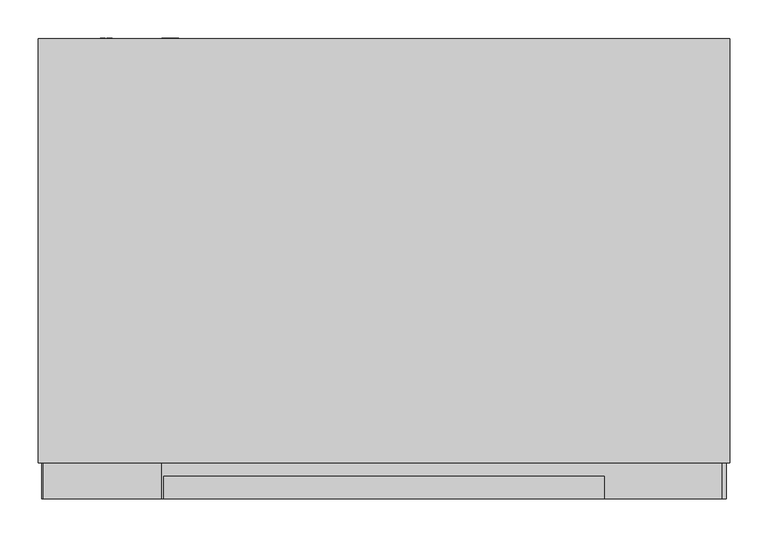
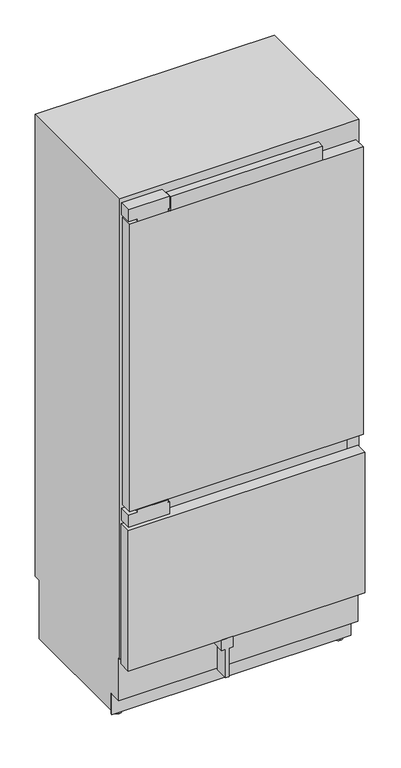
"""IFC4 building model written with IfcOpenShell, lengths in millimetres: proxy geometry, 11502940_USA_KF2912Vi : 38291201_USA_11502940_KF2912Vi."""

from ifc_helpers import new_model, si_unit, point, frame, frame_2d, origin, place, context, project, spatial, polyline, circle_curve, trimmed, segment, composite_curve, outline, extrude, source, transform, mapped, element, save
from ifc_brep_helpers import plane_surface, cylinder_surface, advanced_brep


def specialty_equipment_4c646a47(model_context):
    return source(origin(), model_context, "Body", "SolidModel", [
        extrude(outline(polyline([(247.0, -94.0), (205.0, -94.0), (205.0, -79.5), (90.0, -79.5), (90.0, -66.5), (205.0, -66.5), (205.0, -52.0), (247.0, -52.0), (247.0, -94.0)])), frame((0.0, 0.0, 0.0), z_axis=(0.0, 1.0, 0.0), x_axis=(0.0, 0.0, 1.0)), (0.0, 0.0, 1.0), 54.0),
        extrude(outline(polyline([(-443.0, 47.0), (443.0, 47.0), (443.0, 0.0), (-443.0, 0.0), (-443.0, 47.0)])), frame((0.0, 0.0, 883.0), z_axis=(0.0, 0.0, 1.0), x_axis=(1.0, 0.0, 0.0)), (0.0, 0.0, 1.0), 1153.0),
        extrude(outline(polyline([(-449.5, 47.0), (449.5, 47.0), (449.5, 0.0), (-449.5, 0.0), (-449.5, 47.0)])), frame((0.0, 0.0, 247.0), z_axis=(0.0, 0.0, 1.0), x_axis=(1.0, 0.0, 0.0)), (0.0, 0.0, 1.0), 562.0),
        extrude(outline(polyline([(-289.0, 29.0), (289.0, 29.0), (289.0, 0.0), (-289.0, 0.0), (-289.0, 29.0)])), frame((0.0, 0.0, 2036.0), z_axis=(0.0, 0.0, 1.0), x_axis=(1.0, 0.0, 0.0)), (0.0, 0.0, 1.0), 56.0),
        extrude(outline(polyline([(180.5, 1973.4), (217.625, 1914.0), (216.4457524, 1914.0), (179.3207524, 1973.4), (180.5, 1973.4)])), frame((-69.0, 0.0, 0.0), z_axis=(1.0, 0.0, 0.0), x_axis=(0.0, 1.0, 0.0)), (0.0, 0.0, 1.0), 138.0),
        extrude(outline(polyline([(544.0, 1998.0), (544.0, 1796.0), (474.0, 1796.0), (433.0, 1907.0), (222.0, 1907.0), (177.0, 1979.0), (129.0, 1998.0), (544.0, 1998.0)])), frame((-408.0, 0.0, 0.0), z_axis=(1.0, 0.0, 0.0), x_axis=(0.0, 1.0, 0.0)), (0.0, 0.0, 1.0), 816.0),
        extrude(outline(polyline([(-408.0, 544.0), (408.0, 544.0), (408.0, 519.0), (-408.0, 519.0), (-408.0, 544.0)])), frame((0.0, 0.0, 303.0), z_axis=(0.0, 0.0, 1.0), x_axis=(1.0, 0.0, 0.0)), (0.0, 0.0, 1.0), 467.0),
        extrude(outline(polyline([(-408.0, 544.0), (408.0, 544.0), (408.0, 47.0), (-408.0, 47.0), (-408.0, 544.0)])), frame((0.0, 0.0, 770.0), z_axis=(0.0, 0.0, 1.0), x_axis=(1.0, 0.0, 0.0)), (0.0, 0.0, 1.0), 144.0),
        extrude(outline(polyline([(46.0510837, -279.101717), (37.4134902, -281.1745179), (46.0453554, -283.6868463), (46.0453554, -285.5601414), (37.4089549, -288.0799633), (46.0493903, -290.1581876), (46.0493903, -291.4649805), (36.0005458, -288.7156324), (36.0005458, -287.372208), (44.8261022, -284.6342221), (35.9987467, -282.0620509), (35.9987287, -280.5451466), (46.0510837, -277.800191), (46.0510837, -279.101717)])), frame((0.0, 604.0, 0.0), z_axis=(0.0, 1.0, 0.0), x_axis=(0.0, 0.0, 1.0)), (0.0, 0.0, 1.0), 1.0),
        extrude(outline(polyline([(46.0485238, -270.7401503), (41.1363122, -270.7401503), (46.0468162, -275.884602), (46.0468162, -277.6328316), (41.9156889, -273.3260313), (36.000035, -277.8032231), (36.000035, -276.2795519), (41.0742849, -272.4391666), (39.4525334, -270.7395503), (35.9999292, -270.7395503), (35.9999292, -269.4795491), (46.0485238, -269.4795491), (46.0485238, -270.7401503)])), frame((0.0, 604.0, 0.0), z_axis=(0.0, 1.0, 0.0), x_axis=(0.0, 0.0, 1.0)), (0.0, 0.0, 1.0), 1.0),
        extrude(outline(composite_curve([segment(trimmed(circle_curve(frame_2d((41.0, -280.0)), 7.5), [point((33.5, -280.0))], [point((48.5, -280.0))], False, "CARTESIAN"), True, "CONTINUOUS"), segment(trimmed(circle_curve(frame_2d((41.0, -280.0)), 7.5), [point((48.5, -280.0))], [point((33.5, -280.0))], False, "CARTESIAN"), True, "CONTINUOUS")], self_intersect=False)), frame((0.0, 577.0, 0.0), z_axis=(0.0, 1.0, 0.0), x_axis=(0.0, 0.0, 1.0)), (0.0, 0.0, 1.0), 27.0),
        extrude(outline(polyline([(2095.0, -447.5), (2047.0, -447.5), (2047.0, -413.5), (2036.5, -413.5), (2036.5, -298.5), (2047.0, -298.5), (2047.0, -292.5), (2095.0, -292.5), (2095.0, -447.5)])), frame((0.0, 0.0, 0.0), z_axis=(0.0, 1.0, 0.0), x_axis=(0.0, 0.0, 1.0)), (0.0, 0.0, 1.0), 47.0),
        extrude(outline(polyline([(871.0, -447.5), (823.0, -447.5), (823.0, -292.5), (871.0, -292.5), (871.0, -298.5), (881.0, -298.5), (881.0, -413.5), (871.0, -413.5), (871.0, -447.5)])), frame((0.0, 0.0, 0.0), z_axis=(0.0, 1.0, 0.0), x_axis=(0.0, 0.0, 1.0)), (0.0, 0.0, 1.0), 47.0),
        extrude(outline(polyline([(99.0373308, -363.7645771), (97.7615342, -363.7645771), (97.7615342, -357.8195541), (94.7968516, -357.8195541), (94.7968516, -363.469579), (93.5246295, -363.469579), (93.5246295, -357.8415693), (90.2570046, -357.8415693), (90.2570046, -363.9619689), (88.9546219, -363.9619689), (88.9546219, -356.5443524), (99.0373308, -356.5443524), (99.0373308, -363.7645771)])), frame((0.0, 604.0, 0.0), z_axis=(0.0, 1.0, 0.0), x_axis=(0.0, 0.0, 1.0)), (0.0, 0.0, 1.0), 1.0),
        extrude(outline(polyline([(99.0458, -367.0619704), (90.2663944, -367.0619704), (90.2663944, -372.1145879), (89.0134802, -372.1145879), (89.0134802, -365.8423809), (99.0458, -365.8423809), (99.0458, -367.0619704)])), frame((0.0, 604.0, 0.0), z_axis=(0.0, 1.0, 0.0), x_axis=(0.0, 0.0, 1.0)), (0.0, 0.0, 1.0), 1.0),
        extrude(outline(composite_curve([segment(trimmed(circle_curve(frame_2d((94.0, -364.0)), 7.5), [point((86.5, -364.0))], [point((101.5, -364.0))], False, "CARTESIAN"), True, "CONTINUOUS"), segment(trimmed(circle_curve(frame_2d((94.0, -364.0)), 7.5), [point((101.5, -364.0))], [point((86.5, -364.0))], False, "CARTESIAN"), True, "CONTINUOUS")], self_intersect=False)), frame((0.0, 577.0, 0.0), z_axis=(0.0, 1.0, 0.0), x_axis=(0.0, 0.0, 1.0)), (0.0, 0.0, 1.0), 27.0),
        extrude(outline(polyline([(-454.0, 104.0), (454.0, 104.0), (454.0, 99.0), (-454.0, 99.0), (-454.0, 104.0)])), frame((0.0, 0.0, 14.0), z_axis=(0.0, 0.0, 1.0), x_axis=(1.0, 0.0, 0.0)), (0.0, 0.0, 1.0), 83.0),
        advanced_brep(
        [(-420.0, 139.0, 0.0), (-420.0, 109.0, 0.0), (-420.0, 139.0, 7.0), (-420.0, 109.0, 7.0), (-420.0, 128.7, 7.0), (-420.0, 119.3, 7.0), (-420.0, 128.7, 28.0), (-420.0, 119.3, 28.0)],
        [
            (0, 1, circle_curve(frame((-420.0, 124.0, 0.0), z_axis=(0.0, 0.0, -1.0), x_axis=(1.0, 0.0, 0.0)), 15.0)),
            (1, 0, circle_curve(frame((-420.0, 124.0, 0.0), z_axis=(0.0, 0.0, -1.0), x_axis=(1.0, 0.0, 0.0)), 15.0)),
            (2, 3, circle_curve(frame((-420.0, 124.0, 7.0), z_axis=(0.0, 0.0, 1.0), x_axis=(1.0, 0.0, 0.0)), 15.0)),
            (3, 2, circle_curve(frame((-420.0, 124.0, 7.0), z_axis=(0.0, 0.0, 1.0), x_axis=(1.0, 0.0, 0.0)), 15.0)),
            (4, 5, circle_curve(frame((-420.0, 124.0, 7.0), z_axis=(0.0, 0.0, -1.0), x_axis=(0.0, -1.0, 0.0)), 4.7)),
            (5, 4, circle_curve(frame((-420.0, 124.0, 7.0), z_axis=(0.0, 0.0, -1.0), x_axis=(0.0, -1.0, 0.0)), 4.7)),
            (0, 2),
            (3, 1),
            (6, 7, circle_curve(frame((-420.0, 124.0, 28.0), z_axis=(0.0, 0.0, 1.0), x_axis=(0.0, -1.0, 0.0)), 4.7)),
            (7, 6, circle_curve(frame((-420.0, 124.0, 28.0), z_axis=(0.0, 0.0, 1.0), x_axis=(0.0, -1.0, 0.0)), 4.7)),
            (7, 5),
            (4, 6),
        ],
        [
            plane_surface(frame((-405.0, 124.0, 0.0), z_axis=(0.0, 0.0, -1.0), x_axis=(0.0, -1.0, 0.0))),
            plane_surface(frame((-405.0, 124.0, 7.0), z_axis=(0.0, 0.0, 1.0), x_axis=(0.0, 1.0, 0.0))),
            cylinder_surface(frame((-420.0, 124.0, 7.0), z_axis=(0.0, 0.0, -1.0), x_axis=(1.0, 0.0, 0.0)), 15.0),
            plane_surface(frame((-420.0, 119.3, 28.0), z_axis=(0.0, 0.0, 1.0), x_axis=(1.0, 0.0, 0.0))),
            cylinder_surface(frame((-420.0, 124.0, 28.0), z_axis=(0.0, 0.0, -1.0), x_axis=(0.0, -1.0, 0.0)), 4.7),
        ],
        [
            (0, [[1, 2]]),
            (1, [[3, 4], [5, 6]]),
            (2, [[-1, 7, -4, 8]]),
            (2, [[-2, -8, -3, -7]]),
            (3, [[9, 10]]),
            (4, [[-10, 11, -5, 12]]),
            (4, [[-9, -12, -6, -11]]),
        ],
    ),
        advanced_brep(
        [(420.0, 139.0, 0.0), (420.0, 109.0, 0.0), (420.0, 139.0, 7.0), (420.0, 109.0, 7.0), (420.0, 128.7, 7.0), (420.0, 119.3, 7.0), (420.0, 128.7, 28.0), (420.0, 119.3, 28.0)],
        [
            (0, 1, circle_curve(frame((420.0, 124.0, 0.0), z_axis=(0.0, 0.0, -1.0), x_axis=(1.0, 0.0, 0.0)), 15.0)),
            (1, 0, circle_curve(frame((420.0, 124.0, 0.0), z_axis=(0.0, 0.0, -1.0), x_axis=(1.0, 0.0, 0.0)), 15.0)),
            (2, 3, circle_curve(frame((420.0, 124.0, 7.0), z_axis=(0.0, 0.0, 1.0), x_axis=(1.0, 0.0, 0.0)), 15.0)),
            (3, 2, circle_curve(frame((420.0, 124.0, 7.0), z_axis=(0.0, 0.0, 1.0), x_axis=(1.0, 0.0, 0.0)), 15.0)),
            (4, 5, circle_curve(frame((420.0, 124.0, 7.0), z_axis=(0.0, 0.0, -1.0), x_axis=(0.0, -1.0, 0.0)), 4.7)),
            (5, 4, circle_curve(frame((420.0, 124.0, 7.0), z_axis=(0.0, 0.0, -1.0), x_axis=(0.0, -1.0, 0.0)), 4.7)),
            (0, 2),
            (3, 1),
            (6, 7, circle_curve(frame((420.0, 124.0, 28.0), z_axis=(0.0, 0.0, 1.0), x_axis=(0.0, -1.0, 0.0)), 4.7)),
            (7, 6, circle_curve(frame((420.0, 124.0, 28.0), z_axis=(0.0, 0.0, 1.0), x_axis=(0.0, -1.0, 0.0)), 4.7)),
            (7, 5),
            (4, 6),
        ],
        [
            plane_surface(frame((-405.0, 124.0, 0.0), z_axis=(0.0, 0.0, -1.0), x_axis=(0.0, -1.0, 0.0))),
            plane_surface(frame((-405.0, 124.0, 7.0), z_axis=(0.0, 0.0, 1.0), x_axis=(0.0, 1.0, 0.0))),
            cylinder_surface(frame((420.0, 124.0, 7.0), z_axis=(0.0, 0.0, -1.0), x_axis=(1.0, 0.0, 0.0)), 15.0),
            plane_surface(frame((-420.0, 119.3, 28.0), z_axis=(0.0, 0.0, 1.0), x_axis=(1.0, 0.0, 0.0))),
            cylinder_surface(frame((420.0, 124.0, 28.0), z_axis=(0.0, 0.0, -1.0), x_axis=(0.0, -1.0, 0.0)), 4.7),
        ],
        [
            (0, [[1, 2]]),
            (1, [[3, 4], [5, 6]]),
            (2, [[-1, 7, -4, 8]]),
            (2, [[-2, -8, -3, -7]]),
            (3, [[9, 10]]),
            (4, [[-10, 11, -5, 12]]),
            (4, [[-9, -12, -6, -11]]),
        ],
    ),
        advanced_brep(
        [(454.0, 47.0, 2114.0), (454.0, 47.0, 267.0), (454.0, 54.0, 267.0), (454.0, 54.0, 97.0), (454.0, 104.0, 97.0), (454.0, 104.0, 28.0), (454.0, 577.0, 28.0), (454.0, 577.0, 263.0), (454.0, 604.0, 263.0), (454.0, 604.0, 2114.0), (-454.0, 47.0, 2114.0), (-454.0, 604.0, 2114.0), (-454.0, 604.0, 263.0), (-454.0, 577.0, 263.0), (-454.0, 577.0, 28.0), (-454.0, 104.0, 28.0), (-454.0, 104.0, 97.0), (-454.0, 54.0, 97.0), (-454.0, 54.0, 267.0), (-454.0, 47.0, 267.0), (394.0, 577.0, 28.0), (394.0, 577.0, 14.0), (-394.0, 577.0, 14.0), (-394.0, 577.0, 28.0), (394.0, 104.0, 14.0), (-394.0, 104.0, 14.0), (-394.0, 104.0, 28.0), (394.0, 104.0, 28.0), (408.0, 47.0, 1998.0), (408.0, 47.0, 303.0), (-408.0, 47.0, 303.0), (-408.0, 47.0, 1998.0), (408.0, 544.0, 1998.0), (-408.0, 544.0, 1998.0), (-408.0, 544.0, 303.0), (408.0, 544.0, 303.0), (-412.5, 202.8193473, 28.0), (-431.5, 202.8193473, 28.0), (-431.5, 153.1806527, 28.0), (-412.5, 153.1806527, 28.0), (-432.0, 525.8193473, 28.0), (-432.0, 476.1806527, 28.0), (-416.0, 476.1806527, 28.0), (-416.0, 525.8193473, 28.0), (431.5, 153.1806527, 28.0), (431.5, 202.8193473, 28.0), (412.5, 202.8193473, 28.0), (412.5, 153.1806527, 28.0), (416.0, 525.8193473, 28.0), (416.0, 476.1806527, 28.0), (432.0, 476.1806527, 28.0), (432.0, 525.8193473, 28.0), (-412.5, 203.0, 25.0), (-412.5, 153.0, 25.0), (-431.5, 153.0, 25.0), (-431.5, 203.0, 25.0), (-412.5, 178.0, 25.0), (-431.5, 178.0, 25.0), (431.5, 178.0, 25.0), (431.5, 153.0, 25.0), (431.5, 203.0, 25.0), (412.5, 203.0, 25.0), (412.5, 153.0, 25.0), (412.5, 178.0, 25.0), (-432.0, 526.0, 25.0), (-432.0, 476.0, 25.0), (-432.0, 501.0, 25.0), (-416.0, 526.0, 25.0), (-416.0, 476.0, 25.0), (-416.0, 501.0, 25.0), (416.0, 526.0, 25.0), (416.0, 476.0, 25.0), (416.0, 501.0, 25.0), (432.0, 526.0, 25.0), (432.0, 476.0, 25.0), (432.0, 501.0, 25.0)],
        [
            (0, 1),
            (1, 2),
            (2, 3),
            (3, 4),
            (4, 5),
            (5, 6),
            (6, 7),
            (7, 8),
            (8, 9),
            (9, 0),
            (10, 11),
            (11, 12),
            (12, 13),
            (13, 14),
            (14, 15),
            (15, 16),
            (16, 17),
            (17, 18),
            (18, 19),
            (19, 10),
            (9, 11),
            (10, 0),
            (8, 12),
            (7, 13),
            (6, 20),
            (20, 21),
            (21, 22),
            (22, 23),
            (23, 14),
            (21, 24),
            (24, 25),
            (25, 22),
            (4, 16),
            (15, 26),
            (26, 25),
            (24, 27),
            (27, 5),
            (3, 17),
            (2, 18),
            (1, 19),
            (28, 29),
            (29, 30),
            (30, 31),
            (31, 28),
            (32, 33),
            (33, 34),
            (34, 35),
            (35, 32),
            (35, 29),
            (28, 32),
            (34, 30),
            (33, 31),
            (23, 26),
            (36, 37),
            (37, 38),
            (38, 39),
            (39, 36),
            (40, 41),
            (41, 42),
            (42, 43),
            (43, 40),
            (27, 20),
            (44, 45),
            (45, 46),
            (46, 47),
            (47, 44),
            (48, 49),
            (49, 50),
            (50, 51),
            (51, 48),
            (52, 53, circle_curve(frame((-412.5, 178.0, 25.0), z_axis=(-1.0, 0.0, 0.0), x_axis=(0.0, -1.0, 0.0)), 25.0)),
            (53, 54),
            (54, 55, circle_curve(frame((-431.5, 178.0, 25.0), z_axis=(1.0, 0.0, 0.0), x_axis=(0.0, -1.0, 0.0)), 25.0)),
            (55, 52),
            (53, 39, circle_curve(frame((-412.5, 178.0, 25.0), z_axis=(-1.0, 0.0, 0.0), x_axis=(0.0, -1.0, 0.0)), 25.0)),
            (38, 54, circle_curve(frame((-431.5, 178.0, 25.0), z_axis=(1.0, 0.0, 0.0), x_axis=(0.0, -1.0, 0.0)), 25.0)),
            (55, 37, circle_curve(frame((-431.5, 178.0, 25.0), z_axis=(1.0, 0.0, 0.0), x_axis=(0.0, -1.0, 0.0)), 25.0)),
            (36, 52, circle_curve(frame((-412.5, 178.0, 25.0), z_axis=(-1.0, 0.0, 0.0), x_axis=(0.0, -1.0, 0.0)), 25.0)),
            (52, 56),
            (56, 53),
            (54, 57),
            (57, 55),
            (58, 59),
            (59, 60, circle_curve(frame((431.5, 178.0, 25.0), z_axis=(1.0, 0.0, 0.0), x_axis=(0.0, -1.0, 0.0)), 25.0)),
            (60, 58),
            (60, 45, circle_curve(frame((431.5, 178.0, 25.0), z_axis=(1.0, 0.0, 0.0), x_axis=(0.0, -1.0, 0.0)), 25.0)),
            (44, 59, circle_curve(frame((431.5, 178.0, 25.0), z_axis=(1.0, 0.0, 0.0), x_axis=(0.0, -1.0, 0.0)), 25.0)),
            (61, 62, circle_curve(frame((412.5, 178.0, 25.0), z_axis=(-1.0, 0.0, 0.0), x_axis=(0.0, -1.0, 0.0)), 25.0)),
            (62, 63),
            (63, 61),
            (62, 47, circle_curve(frame((412.5, 178.0, 25.0), z_axis=(-1.0, 0.0, 0.0), x_axis=(0.0, -1.0, 0.0)), 25.0)),
            (46, 61, circle_curve(frame((412.5, 178.0, 25.0), z_axis=(-1.0, 0.0, 0.0), x_axis=(0.0, -1.0, 0.0)), 25.0)),
            (64, 65, circle_curve(frame((-432.0, 501.0, 25.0), z_axis=(-1.0, 0.0, 0.0), x_axis=(0.0, -1.0, 0.0)), 25.0)),
            (65, 66),
            (66, 64),
            (65, 41, circle_curve(frame((-432.0, 501.0, 25.0), z_axis=(-1.0, 0.0, 0.0), x_axis=(0.0, -1.0, 0.0)), 25.0)),
            (40, 64, circle_curve(frame((-432.0, 501.0, 25.0), z_axis=(-1.0, 0.0, 0.0), x_axis=(0.0, -1.0, 0.0)), 25.0)),
            (64, 67),
            (67, 68, circle_curve(frame((-416.0, 501.0, 25.0), z_axis=(-1.0, 0.0, 0.0), x_axis=(0.0, -1.0, 0.0)), 25.0)),
            (68, 65),
            (43, 67, circle_curve(frame((-416.0, 501.0, 25.0), z_axis=(-1.0, 0.0, 0.0), x_axis=(0.0, -1.0, 0.0)), 25.0)),
            (68, 42, circle_curve(frame((-416.0, 501.0, 25.0), z_axis=(-1.0, 0.0, 0.0), x_axis=(0.0, -1.0, 0.0)), 25.0)),
            (67, 69),
            (69, 68),
            (70, 71, circle_curve(frame((416.0, 501.0, 25.0), z_axis=(-1.0, 0.0, 0.0), x_axis=(0.0, -1.0, 0.0)), 25.0)),
            (71, 72),
            (72, 70),
            (71, 49, circle_curve(frame((416.0, 501.0, 25.0), z_axis=(-1.0, 0.0, 0.0), x_axis=(0.0, -1.0, 0.0)), 25.0)),
            (48, 70, circle_curve(frame((416.0, 501.0, 25.0), z_axis=(-1.0, 0.0, 0.0), x_axis=(0.0, -1.0, 0.0)), 25.0)),
            (70, 73),
            (73, 74, circle_curve(frame((432.0, 501.0, 25.0), z_axis=(-1.0, 0.0, 0.0), x_axis=(0.0, -1.0, 0.0)), 25.0)),
            (74, 71),
            (51, 73, circle_curve(frame((432.0, 501.0, 25.0), z_axis=(-1.0, 0.0, 0.0), x_axis=(0.0, -1.0, 0.0)), 25.0)),
            (74, 50, circle_curve(frame((432.0, 501.0, 25.0), z_axis=(-1.0, 0.0, 0.0), x_axis=(0.0, -1.0, 0.0)), 25.0)),
            (73, 75),
            (75, 74),
            (59, 62),
            (61, 60),
        ],
        [
            plane_surface(frame((454.0, 604.0, 2114.0), z_axis=(1.0, 0.0, 0.0), x_axis=(0.0, -1.0, 0.0))),
            plane_surface(frame((-454.0, 604.0, 2114.0), z_axis=(-1.0, 0.0, 0.0), x_axis=(0.0, 1.0, 0.0))),
            plane_surface(frame((-454.0, 47.0, 2114.0), z_axis=(0.0, 0.0, 1.0), x_axis=(1.0, 0.0, 0.0))),
            plane_surface(frame((-454.0, 604.0, 2114.0), z_axis=(0.0, 1.0, 0.0), x_axis=(1.0, 0.0, 0.0))),
            plane_surface(frame((-454.0, 604.0, 263.0), z_axis=(0.0, 0.0, -1.0), x_axis=(1.0, 0.0, 0.0))),
            plane_surface(frame((-454.0, 577.0, 263.0), z_axis=(0.0, 1.0, 0.0), x_axis=(1.0, 0.0, 0.0))),
            plane_surface(frame((-454.0, 577.0, 14.0), z_axis=(0.0, 0.0, -1.0), x_axis=(1.0, 0.0, 0.0))),
            plane_surface(frame((-454.0, 104.0, 14.0), z_axis=(0.0, -1.0, 0.0), x_axis=(1.0, 0.0, 0.0))),
            plane_surface(frame((-454.0, 104.0, 97.0), z_axis=(0.0, 0.0, -1.0), x_axis=(1.0, 0.0, 0.0))),
            plane_surface(frame((-454.0, 54.0, 97.0), z_axis=(0.0, -1.0, 0.0), x_axis=(1.0, 0.0, 0.0))),
            plane_surface(frame((-454.0, 54.0, 267.0), z_axis=(0.0, 0.0, -1.0), x_axis=(1.0, 0.0, 0.0))),
            plane_surface(frame((-454.0, 47.0, 267.0), z_axis=(0.0, -1.0, 0.0), x_axis=(1.0, 0.0, 0.0))),
            plane_surface(frame((408.0, 544.0, 1998.0), z_axis=(0.0, -1.0, 0.0), x_axis=(0.0, 0.0, -1.0))),
            plane_surface(frame((408.0, 544.0, 1998.0), z_axis=(-1.0, 0.0, 0.0), x_axis=(0.0, -1.0, 0.0))),
            plane_surface(frame((408.0, 544.0, 303.0), z_axis=(0.0, 0.0, 1.0), x_axis=(0.0, -1.0, 0.0))),
            plane_surface(frame((-408.0, 544.0, 303.0), z_axis=(1.0, 0.0, 0.0), x_axis=(0.0, -1.0, 0.0))),
            plane_surface(frame((-408.0, 544.0, 1998.0), z_axis=(0.0, 0.0, -1.0), x_axis=(0.0, -1.0, 0.0))),
            plane_surface(frame((-454.0, 604.0, 28.0), z_axis=(0.0, 0.0, -1.0), x_axis=(-1.0, 0.0, 0.0))),
            plane_surface(frame((-394.0, 104.0, 28.0), z_axis=(-1.0, 0.0, 0.0), x_axis=(0.0, 0.0, -1.0))),
            plane_surface(frame((394.0, 604.0, 28.0), z_axis=(1.0, 0.0, 0.0), x_axis=(0.0, 0.0, -1.0))),
            cylinder_surface(frame((-546.6988927, 178.0, 25.0), z_axis=(1.0, 0.0, 0.0), x_axis=(0.0, -1.0, 0.0)), 25.0),
            plane_surface(frame((-412.5, 178.0, 25.0), z_axis=(1.0, 0.0, 0.0), x_axis=(0.0, -1.0, 0.0))),
            plane_surface(frame((-431.5, 178.0, 25.0), z_axis=(-1.0, 0.0, 0.0), x_axis=(0.0, -1.0, 0.0))),
            plane_surface(frame((431.5, 178.0, 25.0), z_axis=(1.0, 0.0, 0.0), x_axis=(0.0, -1.0, 0.0))),
            plane_surface(frame((412.5, 178.0, 25.0), z_axis=(-1.0, 0.0, 0.0), x_axis=(0.0, -1.0, 0.0))),
            plane_surface(frame((-432.0, 501.0, 25.0), z_axis=(-1.0, 0.0, 0.0), x_axis=(0.0, -1.0, 0.0))),
            cylinder_surface(frame((-546.6988927, 501.0, 25.0), z_axis=(1.0, 0.0, 0.0), x_axis=(0.0, -1.0, 0.0)), 25.0),
            plane_surface(frame((-416.0, 501.0, 25.0), z_axis=(1.0, 0.0, 0.0), x_axis=(0.0, -1.0, 0.0))),
            plane_surface(frame((416.0, 501.0, 25.0), z_axis=(-1.0, 0.0, 0.0), x_axis=(0.0, -1.0, 0.0))),
            plane_surface(frame((432.0, 501.0, 25.0), z_axis=(1.0, 0.0, 0.0), x_axis=(0.0, -1.0, 0.0))),
        ],
        [
            (0, [[1, 2, 3, 4, 5, 6, 7, 8, 9, 10]]),
            (1, [[11, 12, 13, 14, 15, 16, 17, 18, 19, 20]]),
            (2, [[-10, 21, -11, 22]]),
            (3, [[-9, 23, -12, -21]]),
            (4, [[-8, 24, -13, -23]]),
            (5, [[-24, -7, 25, 26, 27, 28, 29, -14]]),
            (6, [[-27, 30, 31, 32]]),
            (7, [[33, -16, 34, 35, -31, 36, 37, -5]]),
            (8, [[-4, 38, -17, -33]]),
            (9, [[-3, 39, -18, -38]]),
            (10, [[-2, 40, -19, -39]]),
            (11, [[-1, -22, -20, -40], [41, 42, 43, 44]]),
            (12, [[45, 46, 47, 48]]),
            (13, [[-48, 49, -41, 50]]),
            (14, [[-47, 51, -42, -49]]),
            (15, [[-46, 52, -43, -51]]),
            (16, [[-45, -50, -44, -52]]),
            (17, [[53, -34, -15, -29], [54, 55, 56, 57], [58, 59, 60, 61]]),
            (17, [[62, -25, -6, -37], [63, 64, 65, 66], [67, 68, 69, 70]]),
            (18, [[-53, -28, -32, -35]]),
            (19, [[-62, -36, -30, -26]]),
            (20, [[71, 72, 73, 74]]),
            (20, [[-72, 75, -56, 76]]),
            (20, [[-74, 77, -54, 78]]),
            (21, [[-71, 79, 80]]),
            (21, [[-80, -79, -78, -57, -75]]),
            (22, [[-73, 81, 82]]),
            (22, [[-81, -76, -55, -77, -82]]),
            (23, [[83, 84, 85]]),
            (23, [[-83, -85, 86, -63, 87]]),
            (24, [[88, 89, 90]]),
            (24, [[-89, 91, -65, 92, -90]]),
            (25, [[93, 94, 95]]),
            (25, [[-94, 96, -58, 97, -95]]),
            (26, [[-93, 98, 99, 100]]),
            (26, [[-98, -97, -61, 101]]),
            (26, [[-100, 102, -59, -96]]),
            (27, [[-99, 103, 104]]),
            (27, [[-104, -103, -101, -60, -102]]),
            (28, [[105, 106, 107]]),
            (28, [[-106, 108, -67, 109, -107]]),
            (26, [[-105, 110, 111, 112]]),
            (26, [[-110, -109, -70, 113]]),
            (26, [[-112, 114, -68, -108]]),
            (29, [[-111, 115, 116]]),
            (29, [[-116, -115, -113, -69, -114]]),
            (20, [[-84, 117, -88, 118]]),
            (20, [[-117, -87, -66, -91]]),
            (20, [[-118, -92, -64, -86]]),
        ],
    ),
    ])


if __name__ == "__main__":
    model = new_model("IFC4")
    model_context = context("Model", 3, world=origin())
    ifc_project = project(units=[si_unit("LENGTHUNIT", "METRE", prefix="MILLI")], contexts=[model_context])
    site = spatial("IfcSite", under=ifc_project)
    building = spatial("IfcBuilding", under=site)
    placement = place(None, origin())
    specialty_equipment_shape = specialty_equipment_4c646a47(model_context)
    element("IfcBuildingElementProxy", 1, Name="11502940_USA_KF2912Vi : 38291201_USA_11502940_KF2912Vi", ObjectType="11502940_USA_KF2912Vi : 38291201_USA_11502940_KF2912Vi", at=placement, inside=building, context=model_context, shape_type="MappedRepresentation", body=[
        mapped(specialty_equipment_shape, transform((0.0, 0.0, 0.0), x_axis=(1.0, 0.0, 0.0), y_axis=(0.0, 1.0, 0.0), z_axis=(0.0, 0.0, 1.0))),
    ])
    save(model, "model.ifc")
